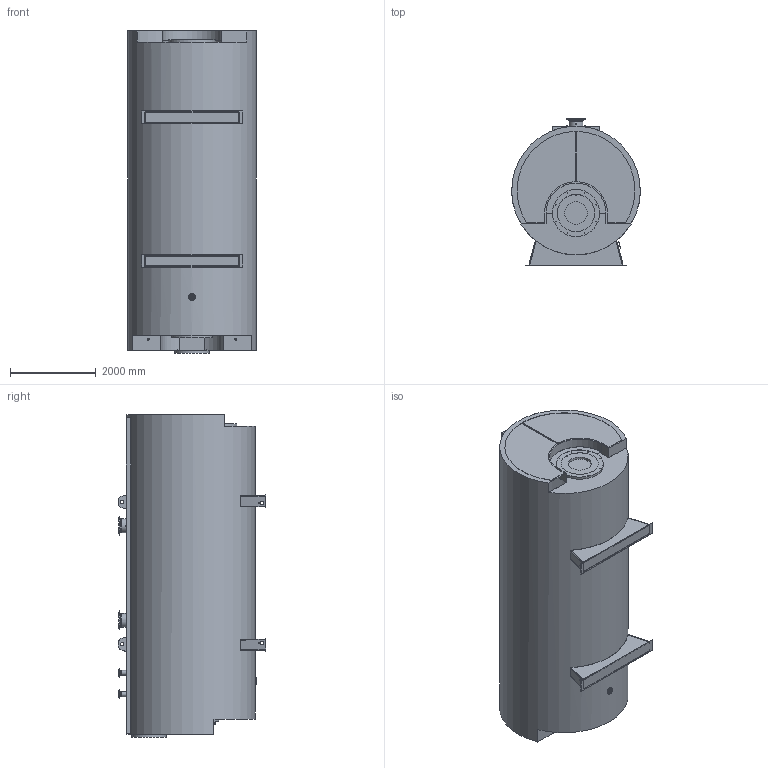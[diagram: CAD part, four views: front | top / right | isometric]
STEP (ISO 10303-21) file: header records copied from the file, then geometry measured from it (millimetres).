
FILE_DESCRIPTION(('TFLEX Exchange Step'),'2;1');
FILE_NAME('MA4A004_7372310.stp', '2024-08-29T16:26:22+03:00',('kort'),('Unknown organisation'),'TFLEX Exchange 2024.2','T-FLEX CAD','Unknown authorisation');
FILE_SCHEMA( ('AUTOMOTIVE_DESIGN { 1 0 10303 214 1 1 1 1 }') );
Length unit declared in the file: millimetre
Products named in the file (1): 7372310 Grundkessel MA4A0_4
Bounding box: 3002.54 x 3442 x 7545 mm (x, y, z)
Volume: 51633576434.2 mm3; surface area: 99114818.3 mm2
Topology: 1 solids, 1 shells, 452 faces, 1262 edges, 864 vertices
Faces by surface type: plane 205, cylinder 194, torus 22, bspline 14, cone 12, extrusion 5
Full cylindrical faces by diameter (mm): 2.2 x4, 3.2 x4, 3.3 x4, 4 x4, 6.5 x4, 13 x4, 14 x8, 18 x20, 18.63 x2, 22 x24, 41.9 x2, 47.8 x2, 48.3 x2, 80 x6, 102 x1, 107.1 x1, 114 x2, 114.3 x4, 158 x2, 161 x2, 165 x1, 220 x2, 295 x2, 322 x2, 323.9 x4, 440 x2, 530 x1, 555 x1, 575 x1, 800 x1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
Entity records: 17511 total; most frequent: CARTESIAN_POINT 4990, DIRECTION 2732, ORIENTED_EDGE 2528, EDGE_CURVE 1264, AXIS2_PLACEMENT_3D 1091, VERTEX_POINT 868, CIRCLE 630, EDGE_LOOP 626
